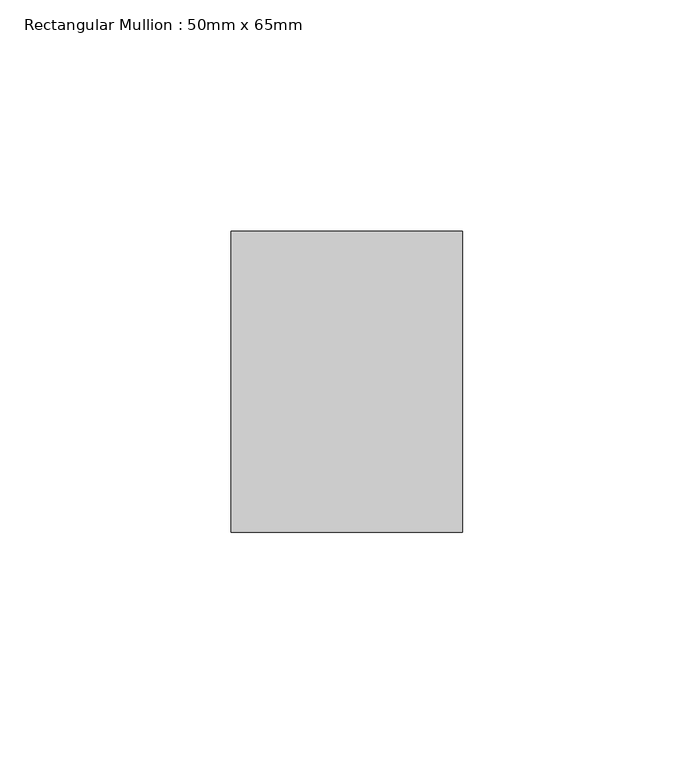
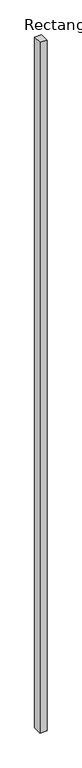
"""IFC4 building model written with IfcOpenShell, lengths in millimetres: member geometry, Rectangular Mullion : 50mm x 65mm."""

from ifc_helpers import new_model, si_unit, frame, origin, place, context, project, spatial, polyline, outline, extrude, source, transform, mapped, element, save


def rectangular_mullion_50mm_x_65mm_76db42fe(model_context):
    return source(origin(), model_context, "Body", "SweptSolid", [
        extrude(outline(polyline([(0.0, 32.5), (0.0, -32.5), (-50.0, -32.5), (-50.0, 32.5), (0.0, 32.5)])), frame((0.0, 0.0, -5180.0), z_axis=(0.0, 0.0, 1.0), x_axis=(1.0, 0.0, 0.0)), (0.0, 0.0, 1.0), 5180.0),
    ])


if __name__ == "__main__":
    model = new_model("IFC4")
    model_context = context("Model", 3, world=origin())
    ifc_project = project(units=[si_unit("LENGTHUNIT", "METRE", prefix="MILLI")], contexts=[model_context])
    site = spatial("IfcSite", under=ifc_project)
    building = spatial("IfcBuilding", under=site)
    placement = place(None, origin())
    rectangular_mullion_50mm_x_65mm_shape = rectangular_mullion_50mm_x_65mm_76db42fe(model_context)
    element("IfcMember", 1, ObjectType="Rectangular Mullion : 50mm x 65mm", at=placement, inside=building, context=model_context, shape_type="MappedRepresentation", body=[
        mapped(rectangular_mullion_50mm_x_65mm_shape, transform((0.0, 0.0, 0.0), x_axis=(1.0, 0.0, 0.0), y_axis=(0.0, 1.0, 0.0), z_axis=(0.0, 0.0, 1.0))),
    ])
    save(model, "model.ifc")
